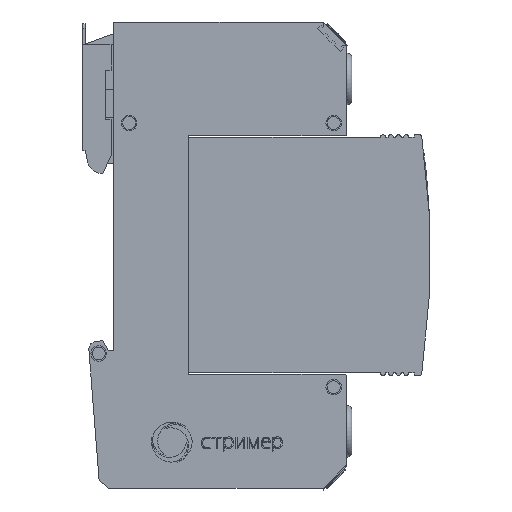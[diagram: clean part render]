
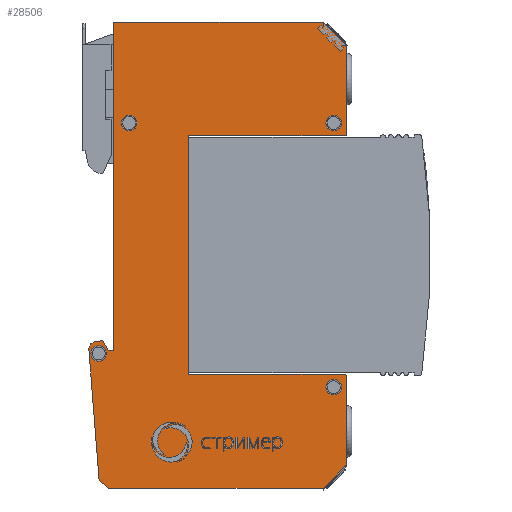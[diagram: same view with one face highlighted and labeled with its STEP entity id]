
A CAD part, front view. The second image highlights one B-rep face of the part: STEP entity #28506.
In plain terms, the highlighted planar face has unit normal (0, -1, 0).
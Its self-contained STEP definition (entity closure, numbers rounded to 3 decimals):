
#26816=CARTESIAN_POINT('',(-14.5,-18.,45.));
#26817=VERTEX_POINT('',#26816);
#26824=CARTESIAN_POINT('',(26.,-18.,45.));
#26825=VERTEX_POINT('',#26824);
#26826=CARTESIAN_POINT('',(-14.5,-18.,45.));
#26827=DIRECTION('',(1.,-0.,-0.));
#26828=VECTOR('',#26827,40.5);
#26829=LINE('',#26826,#26828);
#26830=EDGE_CURVE('',#26817,#26825,#26829,.T.);
#27454=CARTESIAN_POINT('',(-14.5,-18.,-18.5));
#27455=VERTEX_POINT('',#27454);
#27462=CARTESIAN_POINT('',(-14.5,-18.,-18.5));
#27463=DIRECTION('',(-0.,-0.,1.));
#27464=VECTOR('',#27463,63.5);
#27465=LINE('',#27462,#27464);
#27466=EDGE_CURVE('',#27455,#26817,#27465,.T.);
#27661=CARTESIAN_POINT('',(-15.5,-18.,-45.));
#27662=VERTEX_POINT('',#27661);
#27669=CARTESIAN_POINT('',(-17.29,-18.,-43.498));
#27670=VERTEX_POINT('',#27669);
#27671=CARTESIAN_POINT('',(-15.5,-18.,-45.));
#27672=DIRECTION('',(-0.766,-0.,0.643));
#27673=VECTOR('',#27672,2.337);
#27674=LINE('',#27671,#27673);
#27675=EDGE_CURVE('',#27662,#27670,#27674,.T.);
#27700=CARTESIAN_POINT('',(-19.273,-18.,-18.306));
#27701=VERTEX_POINT('',#27700);
#27702=CARTESIAN_POINT('',(-17.29,-18.,-43.498));
#27703=DIRECTION('',(-0.078,-0.,0.997));
#27704=VECTOR('',#27703,25.27);
#27705=LINE('',#27702,#27704);
#27706=EDGE_CURVE('',#27670,#27701,#27705,.T.);
#27732=CARTESIAN_POINT('',(-17.999,-18.,-16.704));
#27733=VERTEX_POINT('',#27732);
#27734=CARTESIAN_POINT('',(-17.777,-18.,-18.188));
#27735=DIRECTION('',(0.,1.,0.));
#27736=DIRECTION('',(0.,-0.,1.));
#27737=AXIS2_PLACEMENT_3D('',#27734,#27735,#27736);
#27738=CIRCLE('',#27737,1.5);
#27739=EDGE_CURVE('',#27701,#27733,#27738,.T.);
#27764=CARTESIAN_POINT('',(-16.632,-18.,-16.5));
#27765=VERTEX_POINT('',#27764);
#27766=CARTESIAN_POINT('',(-17.999,-18.,-16.704));
#27767=DIRECTION('',(0.989,-0.,0.148));
#27768=VECTOR('',#27767,1.383);
#27769=LINE('',#27766,#27768);
#27770=EDGE_CURVE('',#27733,#27765,#27769,.T.);
#27795=CARTESIAN_POINT('',(-15.5,-18.,-18.5));
#27796=VERTEX_POINT('',#27795);
#27797=CARTESIAN_POINT('',(-16.632,-18.,-16.5));
#27798=DIRECTION('',(0.492,0.,-0.87));
#27799=VECTOR('',#27798,2.298);
#27800=LINE('',#27797,#27799);
#27801=EDGE_CURVE('',#27765,#27796,#27800,.T.);
#27824=CARTESIAN_POINT('',(-15.5,-18.,-18.5));
#27825=DIRECTION('',(1.,-0.,-0.));
#27826=VECTOR('',#27825,1.);
#27827=LINE('',#27824,#27826);
#27828=EDGE_CURVE('',#27796,#27455,#27827,.T.);
#27848=CARTESIAN_POINT('',(30.5,-18.,40.5));
#27849=VERTEX_POINT('',#27848);
#27850=CARTESIAN_POINT('',(26.,-18.,45.));
#27851=DIRECTION('',(0.707,0.,-0.707));
#27852=VECTOR('',#27851,6.364);
#27853=LINE('',#27850,#27852);
#27854=EDGE_CURVE('',#26825,#27849,#27853,.T.);
#27899=CARTESIAN_POINT('',(30.5,-18.,23.5));
#27900=VERTEX_POINT('',#27899);
#27901=CARTESIAN_POINT('',(30.5,-18.,40.5));
#27902=DIRECTION('',(-0.,0.,-1.));
#27903=VECTOR('',#27902,17.);
#27904=LINE('',#27901,#27903);
#27905=EDGE_CURVE('',#27849,#27900,#27904,.T.);
#27931=CARTESIAN_POINT('',(30.,-18.,23.));
#27932=VERTEX_POINT('',#27931);
#27933=CARTESIAN_POINT('',(30.,-18.,23.5));
#27934=DIRECTION('',(0.,1.,0.));
#27935=DIRECTION('',(0.,-0.,1.));
#27936=AXIS2_PLACEMENT_3D('',#27933,#27934,#27935);
#27937=CIRCLE('',#27936,0.5);
#27938=EDGE_CURVE('',#27900,#27932,#27937,.T.);
#27963=CARTESIAN_POINT('',(0.,-18.,23.));
#27964=VERTEX_POINT('',#27963);
#27965=CARTESIAN_POINT('',(30.,-18.,23.));
#27966=DIRECTION('',(-1.,-0.,-0.));
#27967=VECTOR('',#27966,30.);
#27968=LINE('',#27965,#27967);
#27969=EDGE_CURVE('',#27932,#27964,#27968,.T.);
#27994=CARTESIAN_POINT('',(0.,-18.,-23.));
#27995=VERTEX_POINT('',#27994);
#27996=CARTESIAN_POINT('',(0.,-18.,23.));
#27997=DIRECTION('',(-0.,0.,-1.));
#27998=VECTOR('',#27997,46.);
#27999=LINE('',#27996,#27998);
#28000=EDGE_CURVE('',#27964,#27995,#27999,.T.);
#28025=CARTESIAN_POINT('',(30.,-18.,-23.));
#28026=VERTEX_POINT('',#28025);
#28027=CARTESIAN_POINT('',(0.,-18.,-23.));
#28028=DIRECTION('',(1.,-0.,-0.));
#28029=VECTOR('',#28028,30.);
#28030=LINE('',#28027,#28029);
#28031=EDGE_CURVE('',#27995,#28026,#28030,.T.);
#28057=CARTESIAN_POINT('',(30.5,-18.,-23.5));
#28058=VERTEX_POINT('',#28057);
#28059=CARTESIAN_POINT('',(30.,-18.,-23.5));
#28060=DIRECTION('',(0.,1.,0.));
#28061=DIRECTION('',(0.,-0.,1.));
#28062=AXIS2_PLACEMENT_3D('',#28059,#28060,#28061);
#28063=CIRCLE('',#28062,0.5);
#28064=EDGE_CURVE('',#28026,#28058,#28063,.T.);
#28109=CARTESIAN_POINT('',(30.5,-18.,-40.5));
#28110=VERTEX_POINT('',#28109);
#28111=CARTESIAN_POINT('',(30.5,-18.,-23.5));
#28112=DIRECTION('',(-0.,0.,-1.));
#28113=VECTOR('',#28112,17.);
#28114=LINE('',#28111,#28113);
#28115=EDGE_CURVE('',#28058,#28110,#28114,.T.);
#28140=CARTESIAN_POINT('',(26.,-18.,-45.));
#28141=VERTEX_POINT('',#28140);
#28142=CARTESIAN_POINT('',(30.5,-18.,-40.5));
#28143=DIRECTION('',(-0.707,0.,-0.707));
#28144=VECTOR('',#28143,6.364);
#28145=LINE('',#28142,#28144);
#28146=EDGE_CURVE('',#28110,#28141,#28145,.T.);
#28162=CARTESIAN_POINT('',(-17.38,-18.,-17.5));
#28163=VERTEX_POINT('',#28162);
#28164=CARTESIAN_POINT('',(-18.88,-18.,-19.));
#28165=VERTEX_POINT('',#28164);
#28166=CARTESIAN_POINT('',(-17.38,-18.,-19.));
#28167=DIRECTION('',(0.,1.,0.));
#28168=DIRECTION('',(0.,-0.,1.));
#28169=AXIS2_PLACEMENT_3D('',#28166,#28167,#28168);
#28170=CIRCLE('',#28169,1.5);
#28171=EDGE_CURVE('',#28163,#28165,#28170,.T.);
#28173=CARTESIAN_POINT('',(-17.38,-18.,-19.));
#28174=DIRECTION('',(0.,1.,0.));
#28175=DIRECTION('',(0.,-0.,1.));
#28176=AXIS2_PLACEMENT_3D('',#28173,#28174,#28175);
#28177=CIRCLE('',#28176,1.5);
#28178=EDGE_CURVE('',#28165,#28163,#28177,.T.);
#28208=CARTESIAN_POINT('',(28.,-18.,-24.));
#28209=VERTEX_POINT('',#28208);
#28210=CARTESIAN_POINT('',(26.5,-18.,-25.5));
#28211=VERTEX_POINT('',#28210);
#28212=CARTESIAN_POINT('',(28.,-18.,-25.5));
#28213=DIRECTION('',(0.,1.,0.));
#28214=DIRECTION('',(0.,-0.,1.));
#28215=AXIS2_PLACEMENT_3D('',#28212,#28213,#28214);
#28216=CIRCLE('',#28215,1.5);
#28217=EDGE_CURVE('',#28209,#28211,#28216,.T.);
#28219=CARTESIAN_POINT('',(28.,-18.,-25.5));
#28220=DIRECTION('',(0.,1.,0.));
#28221=DIRECTION('',(0.,-0.,1.));
#28222=AXIS2_PLACEMENT_3D('',#28219,#28220,#28221);
#28223=CIRCLE('',#28222,1.5);
#28224=EDGE_CURVE('',#28211,#28209,#28223,.T.);
#28254=CARTESIAN_POINT('',(-11.5,-18.,27.));
#28255=VERTEX_POINT('',#28254);
#28256=CARTESIAN_POINT('',(-13.,-18.,25.5));
#28257=VERTEX_POINT('',#28256);
#28258=CARTESIAN_POINT('',(-11.5,-18.,25.5));
#28259=DIRECTION('',(0.,1.,0.));
#28260=DIRECTION('',(0.,-0.,1.));
#28261=AXIS2_PLACEMENT_3D('',#28258,#28259,#28260);
#28262=CIRCLE('',#28261,1.5);
#28263=EDGE_CURVE('',#28255,#28257,#28262,.T.);
#28265=CARTESIAN_POINT('',(-11.5,-18.,25.5));
#28266=DIRECTION('',(0.,1.,0.));
#28267=DIRECTION('',(0.,-0.,1.));
#28268=AXIS2_PLACEMENT_3D('',#28265,#28266,#28267);
#28269=CIRCLE('',#28268,1.5);
#28270=EDGE_CURVE('',#28257,#28255,#28269,.T.);
#28300=CARTESIAN_POINT('',(28.,-18.,27.));
#28301=VERTEX_POINT('',#28300);
#28302=CARTESIAN_POINT('',(26.5,-18.,25.5));
#28303=VERTEX_POINT('',#28302);
#28304=CARTESIAN_POINT('',(28.,-18.,25.5));
#28305=DIRECTION('',(0.,1.,0.));
#28306=DIRECTION('',(0.,-0.,1.));
#28307=AXIS2_PLACEMENT_3D('',#28304,#28305,#28306);
#28308=CIRCLE('',#28307,1.5);
#28309=EDGE_CURVE('',#28301,#28303,#28308,.T.);
#28311=CARTESIAN_POINT('',(28.,-18.,25.5));
#28312=DIRECTION('',(0.,1.,0.));
#28313=DIRECTION('',(0.,-0.,1.));
#28314=AXIS2_PLACEMENT_3D('',#28311,#28312,#28313);
#28315=CIRCLE('',#28314,1.5);
#28316=EDGE_CURVE('',#28303,#28301,#28315,.T.);
#28455=CARTESIAN_POINT('',(26.,-18.,-45.));
#28456=DIRECTION('',(-1.,-0.,-0.));
#28457=VECTOR('',#28456,41.5);
#28458=LINE('',#28455,#28457);
#28459=EDGE_CURVE('',#28141,#27662,#28458,.T.);
#28465=CARTESIAN_POINT('',(0.,-18.,-0.));
#28466=DIRECTION('',(0.,1.,0.));
#28467=DIRECTION('',(0.,0.,-1.));
#28468=AXIS2_PLACEMENT_3D('',#28465,#28466,#28467);
#28469=PLANE('',#28468);
#28470=ORIENTED_EDGE('',*,*,#28316,.T.);
#28471=ORIENTED_EDGE('',*,*,#28309,.T.);
#28472=EDGE_LOOP('',(#28470,#28471));
#28473=FACE_BOUND('',#28472,.T.);
#28474=ORIENTED_EDGE('',*,*,#28270,.T.);
#28475=ORIENTED_EDGE('',*,*,#28263,.T.);
#28476=EDGE_LOOP('',(#28474,#28475));
#28477=FACE_BOUND('',#28476,.T.);
#28478=ORIENTED_EDGE('',*,*,#28224,.T.);
#28479=ORIENTED_EDGE('',*,*,#28217,.T.);
#28480=EDGE_LOOP('',(#28478,#28479));
#28481=FACE_BOUND('',#28480,.T.);
#28482=ORIENTED_EDGE('',*,*,#28178,.T.);
#28483=ORIENTED_EDGE('',*,*,#28171,.T.);
#28484=EDGE_LOOP('',(#28482,#28483));
#28485=FACE_BOUND('',#28484,.T.);
#28486=ORIENTED_EDGE('',*,*,#27675,.F.);
#28487=ORIENTED_EDGE('',*,*,#28459,.F.);
#28488=ORIENTED_EDGE('',*,*,#28146,.F.);
#28489=ORIENTED_EDGE('',*,*,#28115,.F.);
#28490=ORIENTED_EDGE('',*,*,#28064,.F.);
#28491=ORIENTED_EDGE('',*,*,#28031,.F.);
#28492=ORIENTED_EDGE('',*,*,#28000,.F.);
#28493=ORIENTED_EDGE('',*,*,#27969,.F.);
#28494=ORIENTED_EDGE('',*,*,#27938,.F.);
#28495=ORIENTED_EDGE('',*,*,#27905,.F.);
#28496=ORIENTED_EDGE('',*,*,#27854,.F.);
#28497=ORIENTED_EDGE('',*,*,#26830,.F.);
#28498=ORIENTED_EDGE('',*,*,#27466,.F.);
#28499=ORIENTED_EDGE('',*,*,#27828,.F.);
#28500=ORIENTED_EDGE('',*,*,#27801,.F.);
#28501=ORIENTED_EDGE('',*,*,#27770,.F.);
#28502=ORIENTED_EDGE('',*,*,#27739,.F.);
#28503=ORIENTED_EDGE('',*,*,#27706,.F.);
#28504=EDGE_LOOP('',(#28486,#28487,#28488,#28489,#28490,#28491,#28492,#28493,#28494,#28495,#28496,#28497,#28498,#28499,#28500,#28501,#28502,#28503));
#28505=FACE_BOUND('',#28504,.T.);
#28506=ADVANCED_FACE('',(#28473,#28477,#28481,#28485,#28505),#28469,.F.);
